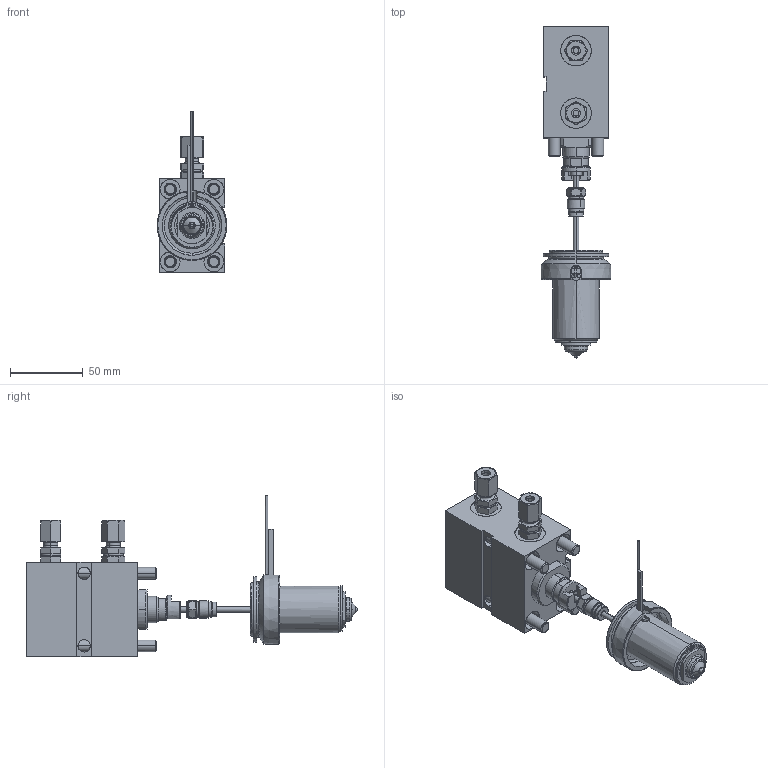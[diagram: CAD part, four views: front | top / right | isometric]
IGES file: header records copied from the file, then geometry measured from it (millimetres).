
Start section: Write IGES format                                    datakit 2008 (c)
Global section: file name: Unknown; native system: DATAKIT Converter; preprocessor: Unknown; author: Unknown; organization: Unknown; date: 950613.180003; units: millimetre
Bounding box: 47.96 x 228.5 x 111.15 mm (x, y, z)
Surface area: 110182.9 mm2 (no closed solid volume)
Topology: 0 solids, 0 shells, 744 faces, 3350 edges, 3336 vertices
Faces by surface type: revolution 468, bspline 276
